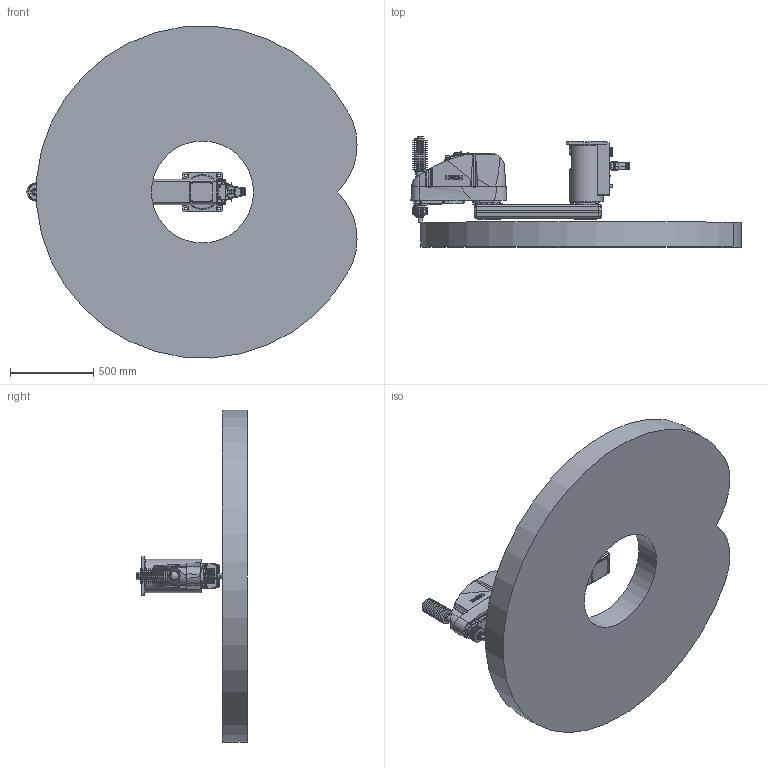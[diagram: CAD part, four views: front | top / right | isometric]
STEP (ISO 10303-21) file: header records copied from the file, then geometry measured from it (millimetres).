
FILE_DESCRIPTION( ( 'STEP AP214' ), '1' );
FILE_NAME( 'C:/Users/9607552/Desktop/GX20-BA01CR_straight.stp', '2023-08-01T09:45:01', ( '' ), ( '' ), ' ', 'PARTsolutions', ' ' );
FILE_SCHEMA( ( 'AUTOMOTIVE_DESIGN { 1 0 10303 214 1 1 1 1 }' ) );
Length unit declared in the file: millimetre
Products named in the file (7): GX20-BA01CRS-W; _Base cr; _Straight-B; _J1 Arm GX10-600 r/w; _J2 Arm GX10-c; _J3 Arm GX10-c (1); _GX10_20B-37_1
Assembly tree (6 placements, depth 2):
  GX20-BA01CRS-W
    _Base cr
    _Straight-B
    _J1 Arm GX10-600 r/w
    _J2 Arm GX10-c
    _J3 Arm GX10-c (1)
    _GX10_20B-37_1
Bounding box: 1985.19 x 665 x 1996.91 mm (x, y, z)
Volume: 461804980.5 mm3; surface area: 8596524.8 mm2
Topology: 6 solids, 6 shells, 2505 faces, 6166 edges, 4003 vertices
Faces by surface type: plane 1312, cylinder 735, cone 350, torus 70, bspline 37, sphere 1
Full cylindrical faces by diameter (mm): 1.18 x55, 2.5 x2, 3 x32, 3.242 x10, 3.3 x9, 4 x2, 4.2 x2, 4.8 x4, 5.1 x4, 5.34 x4, 5.5 x12, 6 x3, 6.2 x2, 6.647 x2, 7 x27, 7.5 x1, 8 x4, 8.5 x2, 9 x4, 10 x32, 10.5 x4, 11 x14, 12 x7, 12.25 x1, 13 x2, 14 x8, 14.25 x1, 16 x7, 18 x2, 20.4 x1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
Entity records: 94692 total; most frequent: CARTESIAN_POINT 17879, DIRECTION 11746, ORIENTED_EDGE 10856, EDGE_CURVE 5428, AXIS2_PLACEMENT_3D 4467, VERTEX_POINT 3894, EDGE_LOOP 3495, FACE_OUTER_BOUND 2857
